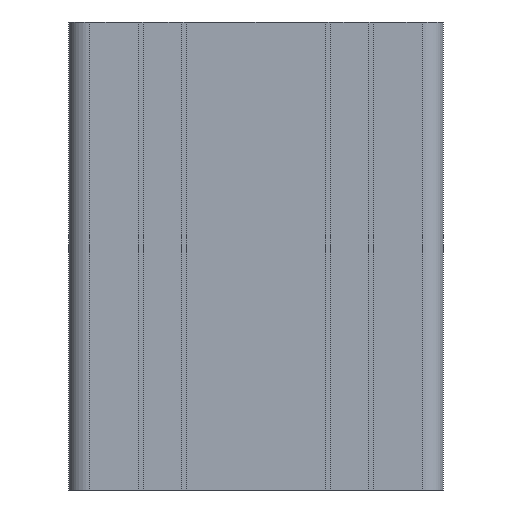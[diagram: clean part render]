
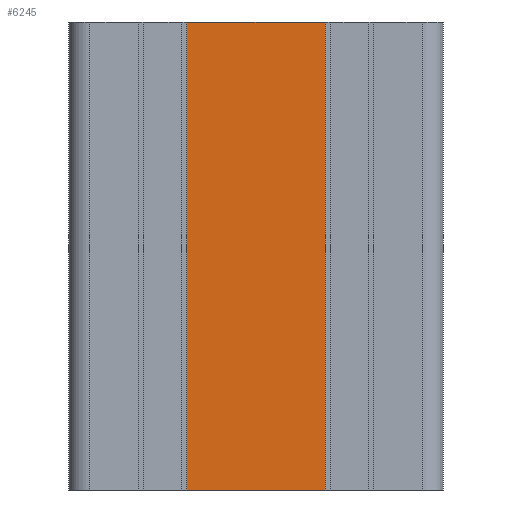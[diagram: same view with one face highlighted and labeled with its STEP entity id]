
A CAD part, left-side view. The second image highlights one B-rep face of the part: STEP entity #6245.
In plain terms, the highlighted planar face has unit normal (-1, 0, 0).
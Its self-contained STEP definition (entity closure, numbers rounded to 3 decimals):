
#488 = CARTESIAN_POINT ( 'NONE',  ( -20., -5.15, -100. ) ) ;
#499 = DIRECTION ( 'NONE',  ( -1., 0., 0. ) ) ;
#805 = LINE ( 'NONE', #4119, #3520 ) ;
#1762 = EDGE_LOOP ( 'NONE', ( #2548, #6664, #2171, #5539 ) ) ;
#2171 = ORIENTED_EDGE ( 'NONE', *, *, #3682, .T. ) ;
#2226 = EDGE_CURVE ( 'NONE', #2946, #4208, #6125, .T. ) ;
#2285 = CARTESIAN_POINT ( 'NONE',  ( -20., -5.15, -100. ) ) ;
#2311 = DIRECTION ( 'NONE',  ( 0., 0., 1. ) ) ;
#2548 = ORIENTED_EDGE ( 'NONE', *, *, #2226, .F. ) ;
#2779 = LINE ( 'NONE', #5228, #5925 ) ;
#2946 = VERTEX_POINT ( 'NONE', #2285 ) ;
#2993 = EDGE_CURVE ( 'NONE', #4208, #4299, #805, .T. ) ;
#3094 = FACE_OUTER_BOUND ( 'NONE', #1762, .T. ) ;
#3343 = CARTESIAN_POINT ( 'NONE',  ( -20., -34.85, -100. ) ) ;
#3520 = VECTOR ( 'NONE', #7091, 1000. ) ;
#3631 = LINE ( 'NONE', #6839, #6455 ) ;
#3682 = EDGE_CURVE ( 'NONE', #6015, #4299, #2779, .T. ) ;
#4119 = CARTESIAN_POINT ( 'NONE',  ( -20., -20., 0. ) ) ;
#4181 = CARTESIAN_POINT ( 'NONE',  ( -20., -20., -100. ) ) ;
#4208 = VERTEX_POINT ( 'NONE', #6289 ) ;
#4299 = VERTEX_POINT ( 'NONE', #5760 ) ;
#4572 = VECTOR ( 'NONE', #2311, 1000. ) ;
#4781 = DIRECTION ( 'NONE',  ( 0., 0., 1. ) ) ;
#5228 = CARTESIAN_POINT ( 'NONE',  ( -20., -34.85, -100. ) ) ;
#5539 = ORIENTED_EDGE ( 'NONE', *, *, #2993, .F. ) ;
#5654 = DIRECTION ( 'NONE',  ( 0., -1., 0. ) ) ;
#5760 = CARTESIAN_POINT ( 'NONE',  ( -20., -34.85, 0. ) ) ;
#5925 = VECTOR ( 'NONE', #6440, 1000. ) ;
#5943 = EDGE_CURVE ( 'NONE', #2946, #6015, #3631, .T. ) ;
#6015 = VERTEX_POINT ( 'NONE', #3343 ) ;
#6125 = LINE ( 'NONE', #488, #4572 ) ;
#6245 = ADVANCED_FACE ( 'NONE', ( #3094 ), #7771, .T. ) ;
#6289 = CARTESIAN_POINT ( 'NONE',  ( -20., -5.15, 0. ) ) ;
#6315 = AXIS2_PLACEMENT_3D ( 'NONE', #4181, #499, #4781 ) ;
#6440 = DIRECTION ( 'NONE',  ( 0., 0., 1. ) ) ;
#6455 = VECTOR ( 'NONE', #5654, 1000. ) ;
#6664 = ORIENTED_EDGE ( 'NONE', *, *, #5943, .T. ) ;
#6839 = CARTESIAN_POINT ( 'NONE',  ( -20., -20., -100. ) ) ;
#7091 = DIRECTION ( 'NONE',  ( 0., -1., 0. ) ) ;
#7771 = PLANE ( 'NONE',  #6315 ) ;
